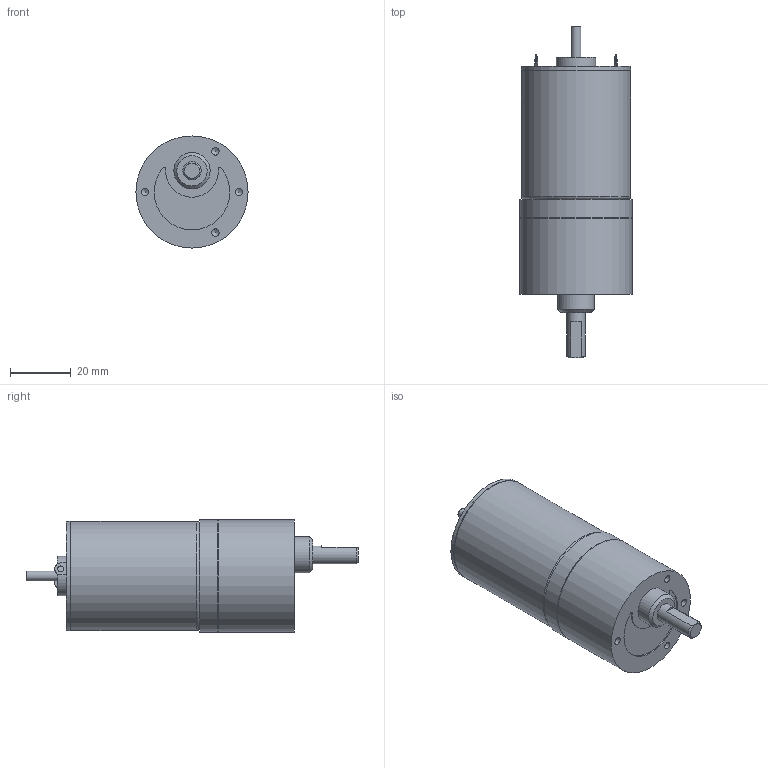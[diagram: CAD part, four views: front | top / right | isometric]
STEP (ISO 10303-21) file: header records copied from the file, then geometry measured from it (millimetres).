
FILE_DESCRIPTION((''),'2;1');
FILE_NAME('C:\Documents and Settings\SSEGAWA\デスクトップ\TP-3644L-HM-5.STP','2013-07-26T17:10:43',('SSEGAWA'),(''),'Autodesk Inventor 2010','Autodesk Inventor 2010','');
FILE_SCHEMA(('CONFIG_CONTROL_DESIGN'));
Length unit declared in the file: millimetre
Products named in the file (1): tp_3644l_hm_5_Shrinkwrap_1
Bounding box: 37 x 109.6 x 37 mm (x, y, z)
Volume: 79692.3 mm3; surface area: 12042.7 mm2
Topology: 1 solids, 4 shells, 65 faces, 140 edges, 94 vertices
Faces by surface type: plane 27, cylinder 18, bspline 16, torus 2, cone 2
Full cylindrical faces by diameter (mm): 3 x1, 3.175 x1, 3.5 x1, 6 x1, 12 x1, 13 x1, 35.6 x1, 36 x2, 36.6 x1, 37 x2
Entity records: 1751 total; most frequent: CARTESIAN_POINT 503, DIRECTION 245, ORIENTED_EDGE 176, EDGE_LOOP 111, AXIS2_PLACEMENT_3D 109, EDGE_CURVE 88, VERTEX_POINT 73, STYLED_ITEM 66
